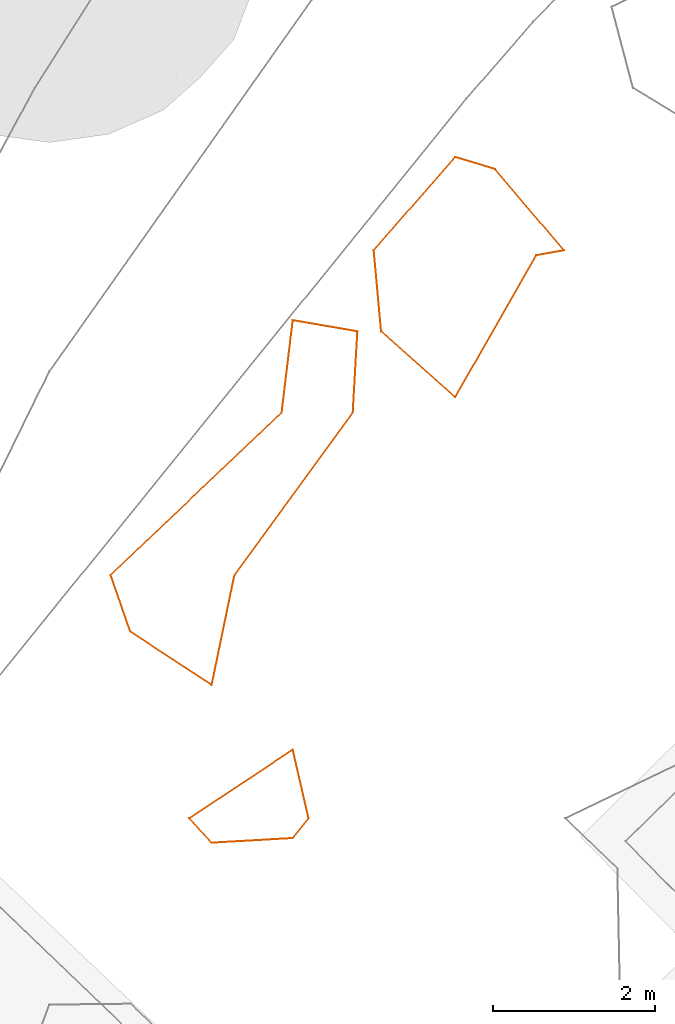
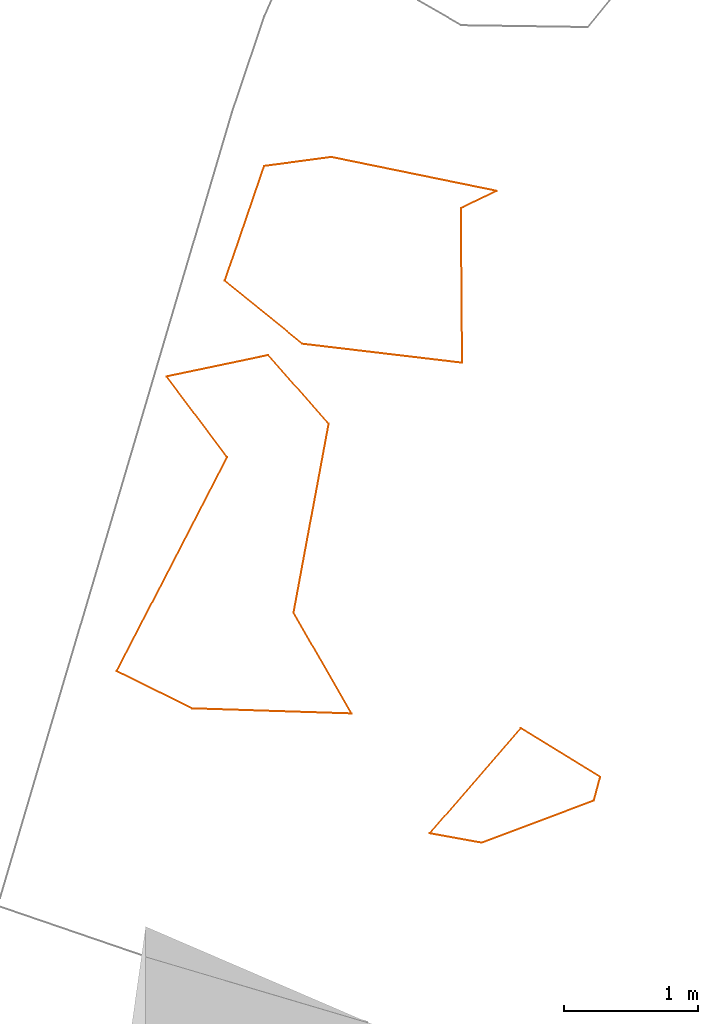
# Not in any storey, part 174 of 494: 3 proxies.
"""IFC2X3 model written with IfcOpenShell, lengths in metres."""

from ifc_helpers import new_model, entity, si_unit, frame, origin_with_axes, place, context, subcontext, project, element, save


model = new_model("IFC2X3")

# Units and contexts
model_context = context("Model", 3, precision=1e-05, world=origin_with_axes())
body_context = subcontext(model_context, "Body", "Model", "MODEL_VIEW")
ifc_project = project(units=[si_unit("AREAUNIT", "SQUARE_METRE"), si_unit("LENGTHUNIT", "METRE")], contexts=[model_context])

# Proxies
proxy_1_placement = place(None, frame((331.6752628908, 299.1707160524, 529.0), z_axis=(0.0, 0.0, 1.0), x_axis=(1.0, 0.0, 0.0)))
element("IfcBuildingElementProxy", 1, at=proxy_1_placement, Name="Contour Line 529.0 m", ObjectType="NOTDEFINED", context=body_context, shape_type="GeometricCurveSet", body=[
    entity("IfcGeometricCurveSet", [entity("IfcPolyline", [entity("IfcCartesianPoint", [1.0024691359, -1.8113006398, 0.0]), entity("IfcCartesianPoint", [2.0024691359, -0.0613496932, 0.0]), entity("IfcCartesianPoint", [2.3439325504, 0.0, 0.0]), entity("IfcCartesianPoint", [1.4946566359, 1.0, 0.0]), entity("IfcCartesianPoint", [1.0024691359, 1.1489361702, 0.0]), entity("IfcCartesianPoint", [0.0, 0.0, 0.0]), entity("IfcCartesianPoint", [0.0916372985, -1.0, 0.0]), entity("IfcCartesianPoint", [1.0024691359, -1.8113006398, 0.0])])]),
])
proxy_2_placement = place(None, frame((328.43248935, 295.1707160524, 529.0), z_axis=(0.0, 0.0, 1.0), x_axis=(1.0, 0.0, 0.0)))
element("IfcBuildingElementProxy", 2, at=proxy_2_placement, Name="Contour Line 529.0 m", ObjectType="NOTDEFINED", context=body_context, shape_type="GeometricCurveSet", body=[
    entity("IfcGeometricCurveSet", [entity("IfcPolyline", [entity("IfcCartesianPoint", [1.2452426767, -1.3559055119, 0.0]), entity("IfcCartesianPoint", [1.5271151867, 0.0, 0.0]), entity("IfcCartesianPoint", [2.9848260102, 2.0, 0.0]), entity("IfcCartesianPoint", [3.0414123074, 3.0, 0.0]), entity("IfcCartesianPoint", [2.2452426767, 3.1379800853, 0.0]), entity("IfcCartesianPoint", [2.1083092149, 2.0, 0.0]), entity("IfcCartesianPoint", [0.0, 0.0, 0.0]), entity("IfcCartesianPoint", [0.2452426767, -0.7019583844, 0.0]), entity("IfcCartesianPoint", [1.2452426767, -1.3559055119, 0.0])])]),
])
proxy_3_placement = place(None, frame((329.4029020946, 292.1707160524, 529.0), z_axis=(0.0, 0.0, 1.0), x_axis=(1.0, 0.0, 0.0)))
element("IfcBuildingElementProxy", 3, at=proxy_3_placement, Name="Contour Line 529.0 m", ObjectType="NOTDEFINED", context=body_context, shape_type="GeometricCurveSet", body=[
    entity("IfcGeometricCurveSet", [entity("IfcPolyline", [entity("IfcCartesianPoint", [1.274829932, -0.2431444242, 0.0]), entity("IfcCartesianPoint", [1.4707062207, 0.0, 0.0]), entity("IfcCartesianPoint", [1.274829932, 0.847133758, 0.0]), entity("IfcCartesianPoint", [0.0, 0.0, 0.0]), entity("IfcCartesianPoint", [0.274829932, -0.3001485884, 0.0]), entity("IfcCartesianPoint", [1.274829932, -0.2431444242, 0.0])])]),
])

save(model, "model.ifc")
